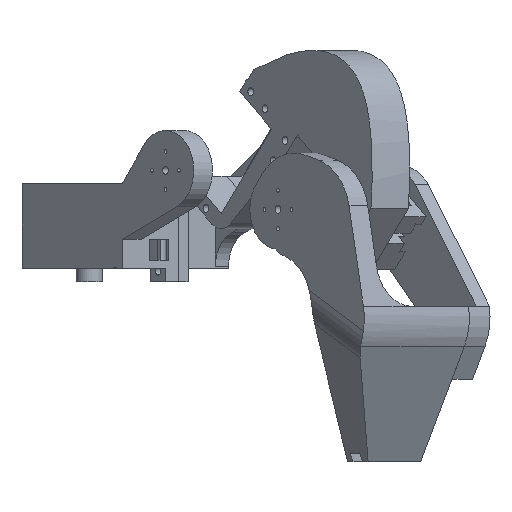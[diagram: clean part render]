
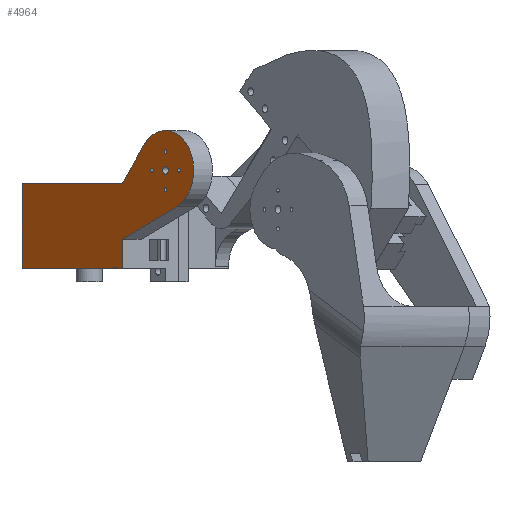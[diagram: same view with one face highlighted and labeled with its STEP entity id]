
A CAD part, left-side view. The second image highlights one B-rep face of the part: STEP entity #4964.
In plain terms, the highlighted planar face has unit normal (-0.707, 0.707, 0).
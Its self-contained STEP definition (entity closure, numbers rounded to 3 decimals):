
#143=FACE_BOUND('',#925,.T.);
#144=FACE_BOUND('',#926,.T.);
#145=FACE_BOUND('',#927,.T.);
#146=FACE_BOUND('',#928,.T.);
#147=FACE_BOUND('',#929,.T.);
#297=CIRCLE('',#5419,1.5);
#298=CIRCLE('',#5420,15.);
#299=CIRCLE('',#5421,0.75);
#300=CIRCLE('',#5422,0.75);
#301=CIRCLE('',#5423,0.75);
#302=CIRCLE('',#5424,0.75);
#303=CIRCLE('',#5425,1.5);
#602=FACE_OUTER_BOUND('',#924,.T.);
#924=EDGE_LOOP('',(#4186,#4187,#4188,#4189,#4190,#4191,#4192,#4193,#4194));
#925=EDGE_LOOP('',(#4195));
#926=EDGE_LOOP('',(#4196));
#927=EDGE_LOOP('',(#4197));
#928=EDGE_LOOP('',(#4198));
#929=EDGE_LOOP('',(#4199));
#1387=LINE('',#8065,#1905);
#1388=LINE('',#8067,#1906);
#1389=LINE('',#8069,#1907);
#1390=LINE('',#8073,#1908);
#1391=LINE('',#8075,#1909);
#1392=LINE('',#8077,#1910);
#1393=LINE('',#8078,#1911);
#1905=VECTOR('',#6522,10.);
#1906=VECTOR('',#6523,10.);
#1907=VECTOR('',#6524,10.);
#1908=VECTOR('',#6527,10.);
#1909=VECTOR('',#6528,10.);
#1910=VECTOR('',#6529,10.);
#1911=VECTOR('',#6530,10.);
#2400=VERTEX_POINT('',#8061);
#2401=VERTEX_POINT('',#8062);
#2402=VERTEX_POINT('',#8064);
#2403=VERTEX_POINT('',#8066);
#2404=VERTEX_POINT('',#8068);
#2405=VERTEX_POINT('',#8070);
#2406=VERTEX_POINT('',#8072);
#2407=VERTEX_POINT('',#8074);
#2408=VERTEX_POINT('',#8076);
#2409=VERTEX_POINT('',#8079);
#2410=VERTEX_POINT('',#8081);
#2411=VERTEX_POINT('',#8083);
#2412=VERTEX_POINT('',#8085);
#2413=VERTEX_POINT('',#8087);
#3018=EDGE_CURVE('',#2400,#2401,#297,.T.);
#3019=EDGE_CURVE('',#2402,#2401,#1387,.T.);
#3020=EDGE_CURVE('',#2403,#2402,#1388,.T.);
#3021=EDGE_CURVE('',#2403,#2404,#1389,.T.);
#3022=EDGE_CURVE('',#2404,#2405,#298,.T.);
#3023=EDGE_CURVE('',#2405,#2406,#1390,.T.);
#3024=EDGE_CURVE('',#2406,#2407,#1391,.T.);
#3025=EDGE_CURVE('',#2407,#2408,#1392,.T.);
#3026=EDGE_CURVE('',#2400,#2408,#1393,.T.);
#3027=EDGE_CURVE('',#2409,#2409,#299,.T.);
#3028=EDGE_CURVE('',#2410,#2410,#300,.T.);
#3029=EDGE_CURVE('',#2411,#2411,#301,.T.);
#3030=EDGE_CURVE('',#2412,#2412,#302,.T.);
#3031=EDGE_CURVE('',#2413,#2413,#303,.T.);
#4186=ORIENTED_EDGE('',*,*,#3018,.T.);
#4187=ORIENTED_EDGE('',*,*,#3019,.F.);
#4188=ORIENTED_EDGE('',*,*,#3020,.F.);
#4189=ORIENTED_EDGE('',*,*,#3021,.T.);
#4190=ORIENTED_EDGE('',*,*,#3022,.T.);
#4191=ORIENTED_EDGE('',*,*,#3023,.T.);
#4192=ORIENTED_EDGE('',*,*,#3024,.T.);
#4193=ORIENTED_EDGE('',*,*,#3025,.T.);
#4194=ORIENTED_EDGE('',*,*,#3026,.F.);
#4195=ORIENTED_EDGE('',*,*,#3027,.T.);
#4196=ORIENTED_EDGE('',*,*,#3028,.T.);
#4197=ORIENTED_EDGE('',*,*,#3029,.T.);
#4198=ORIENTED_EDGE('',*,*,#3030,.T.);
#4199=ORIENTED_EDGE('',*,*,#3031,.T.);
#4739=PLANE('',#5418);
#4964=ADVANCED_FACE('',(#602,#143,#144,#145,#146,#147),#4739,.T.);
#5418=AXIS2_PLACEMENT_3D('',#8060,#6518,#6519);
#5419=AXIS2_PLACEMENT_3D('',#8063,#6520,#6521);
#5420=AXIS2_PLACEMENT_3D('',#8071,#6525,#6526);
#5421=AXIS2_PLACEMENT_3D('',#8080,#6531,#6532);
#5422=AXIS2_PLACEMENT_3D('',#8082,#6533,#6534);
#5423=AXIS2_PLACEMENT_3D('',#8084,#6535,#6536);
#5424=AXIS2_PLACEMENT_3D('',#8086,#6537,#6538);
#5425=AXIS2_PLACEMENT_3D('',#8088,#6539,#6540);
#6518=DIRECTION('center_axis',(-0.707,0.707,0.));
#6519=DIRECTION('ref_axis',(0.,0.,
1.));
#6520=DIRECTION('center_axis',(0.707,-0.707,0.));
#6521=DIRECTION('ref_axis',(0.707,0.707,0.));
#6522=DIRECTION('',(0.707,0.707,0.));
#6523=DIRECTION('',(0.,0.,-1.));
#6524=DIRECTION('',(-0.651,-0.651,0.389));
#6525=DIRECTION('center_axis',(-0.707,0.707,0.));
#6526=DIRECTION('ref_axis',(-0.707,-0.707,0.));
#6527=DIRECTION('',(0.437,0.437,-0.786));
#6528=DIRECTION('',(0.707,0.707,0.));
#6529=DIRECTION('',(0.,0.,-1.));
#6530=DIRECTION('',(0.707,0.707,0.));
#6531=DIRECTION('center_axis',(0.707,-0.707,0.));
#6532=DIRECTION('ref_axis',(0.707,0.707,0.));
#6533=DIRECTION('center_axis',(0.707,-0.707,0.));
#6534=DIRECTION('ref_axis',(0.707,0.707,0.));
#6535=DIRECTION('center_axis',(0.707,-0.707,0.));
#6536=DIRECTION('ref_axis',(0.707,0.707,0.));
#6537=DIRECTION('center_axis',(0.707,-0.707,0.));
#6538=DIRECTION('ref_axis',(0.707,0.707,0.));
#6539=DIRECTION('center_axis',(0.707,-0.707,0.));
#6540=DIRECTION('ref_axis',(0.707,0.707,0.));
#8060=CARTESIAN_POINT('Origin',(-101.964,-164.387,27.985));
#8061=CARTESIAN_POINT('',(-132.277,-194.699,-4.015));
#8062=CARTESIAN_POINT('',(-133.877,-196.299,-4.015));
#8063=CARTESIAN_POINT('Origin',(-133.077,-195.499,-5.));
#8064=CARTESIAN_POINT('',(-135.905,-198.328,-4.015));
#8065=CARTESIAN_POINT('',(-135.905,-198.328,-4.015));
#8066=CARTESIAN_POINT('',(-135.905,-198.328,6.985));
#8067=CARTESIAN_POINT('',(-135.905,-198.328,6.985));
#8068=CARTESIAN_POINT('',(-156.296,-218.719,19.168));
#8069=CARTESIAN_POINT('',(-135.905,-198.328,6.985));
#8070=CARTESIAN_POINT('',(-143.827,-206.25,42.25));
#8071=CARTESIAN_POINT('Origin',(-152.168,-214.591,32.985));
#8072=CARTESIAN_POINT('',(-135.905,-198.328,27.985));
#8073=CARTESIAN_POINT('',(-135.905,-198.328,27.985));
#8074=CARTESIAN_POINT('',(-98.075,-160.498,27.985));
#8075=CARTESIAN_POINT('',(-135.905,-198.328,27.985));
#8076=CARTESIAN_POINT('',(-98.075,-160.498,-4.015));
#8077=CARTESIAN_POINT('',(-98.075,-160.498,27.985));
#8078=CARTESIAN_POINT('',(-135.905,-198.328,-4.015));
#8079=CARTESIAN_POINT('',(-152.699,-215.122,25.785));
#8080=CARTESIAN_POINT('Origin',(-152.168,-214.591,25.785));
#8081=CARTESIAN_POINT('',(-157.79,-220.213,32.985));
#8082=CARTESIAN_POINT('Origin',(-157.26,-219.682,32.985));
#8083=CARTESIAN_POINT('',(-147.608,-210.03,32.985));
#8084=CARTESIAN_POINT('Origin',(-147.077,-209.5,32.985));
#8085=CARTESIAN_POINT('',(-152.699,-215.122,40.185));
#8086=CARTESIAN_POINT('Origin',(-152.168,-214.591,40.185));
#8087=CARTESIAN_POINT('',(-153.229,-215.652,32.985));
#8088=CARTESIAN_POINT('Origin',(-152.168,-214.591,32.985));
